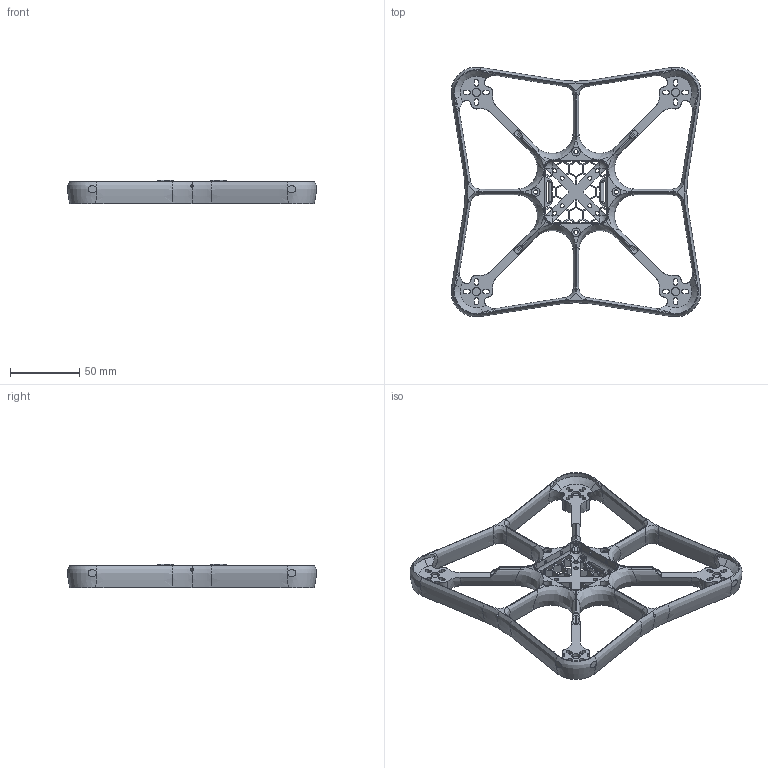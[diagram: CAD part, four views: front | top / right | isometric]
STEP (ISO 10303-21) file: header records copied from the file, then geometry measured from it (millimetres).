
FILE_DESCRIPTION(('FreeCAD Model'),'2;1');
FILE_NAME('Open CASCADE Shape Model','2023-03-07T20:53:33',(''),(''), 'Open CASCADE STEP processor 7.6','FreeCAD','Unknown');
FILE_SCHEMA(('AUTOMOTIVE_DESIGN { 1 0 10303 214 1 1 1 1 }'));
Products named in the file (1): Fusion268
Bounding box: 180 x 180 x 17 mm (x, y, z)
Volume: 86987.9 mm3; surface area: 60001.2 mm2
Topology: 1 solids, 1 shells, 849 faces, 2354 edges, 1476 vertices
Faces by surface type: plane 299, bspline 296, cylinder 174, cone 60, torus 16, sphere 4
Full cylindrical faces by diameter (mm): 2 x12, 3 x12, 6 x20
Entity records: 51516 total; most frequent: CARTESIAN_POINT 32002, ORIENTED_EDGE 4700, DIRECTION 3238, EDGE_CURVE 2350, VERTEX_POINT 1476, AXIS2_PLACEMENT_3D 1154, FACE_BOUND 1006, EDGE_LOOP 1006
